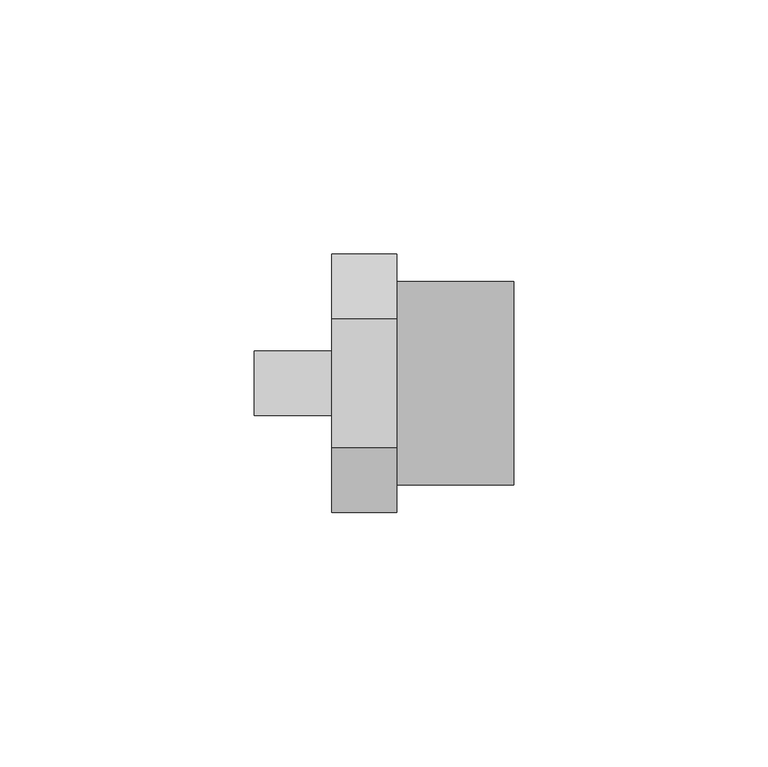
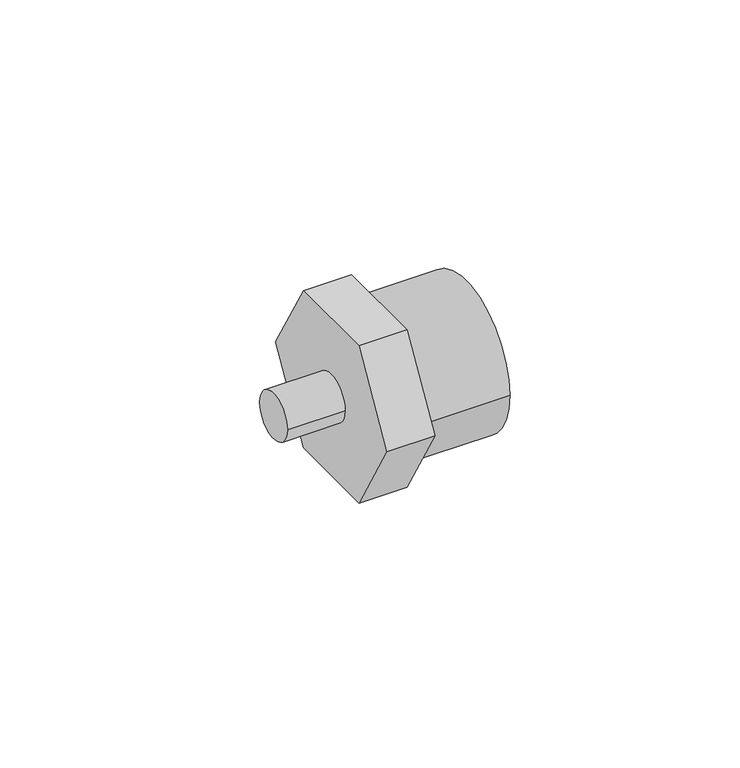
"""IFC4 building model written with IfcOpenShell, lengths in millimetres: pipe fitting geometry, 01101081 : Mamelons de réduction multiple FxMxM."""

from ifc_helpers import new_model, si_unit, point, frame, origin, origin_2d, place, context, project, spatial, polyline, circle_curve, trimmed, segment, composite_curve, outline, extrude, source, transform, mapped, element, save


def pipe_fitting_19b25171(model_context):
    return source(origin(), model_context, "Body", "SweptSolid", [
        extrude(outline(composite_curve([segment(trimmed(circle_curve(origin_2d(), 6.35), [point((6.35, 0.0))], [point((-6.35, 0.0))], False, "CARTESIAN"), True, "CONTINUOUS"), segment(trimmed(circle_curve(origin_2d(), 6.35), [point((-6.35, 0.0))], [point((6.35, 0.0))], False, "CARTESIAN"), True, "CONTINUOUS")], self_intersect=False)), frame((0.0, 0.0, 0.0), z_axis=(1.0, 0.0, 0.0), x_axis=(0.0, 1.0, 0.0)), (0.0, 0.0, 1.0), 15.25),
        extrude(outline(polyline([(-12.7017059, 22.0), (12.7017059, 22.0), (25.4034118, 0.0), (12.7017059, -22.0), (-12.7017059, -22.0), (-25.4034118, 0.0), (-12.7017059, 22.0)])), frame((15.25, 0.0, 0.0), z_axis=(1.0, 0.0, 0.0), x_axis=(0.0, 1.0, 0.0)), (0.0, 0.0, 1.0), 12.75),
        extrude(outline(composite_curve([segment(trimmed(circle_curve(origin_2d(), 20.0), [point((-20.0, 0.0))], [point((20.0, 0.0))], False, "CARTESIAN"), True, "CONTINUOUS"), segment(trimmed(circle_curve(origin_2d(), 20.0), [point((20.0, 0.0))], [point((-20.0, 0.0))], False, "CARTESIAN"), True, "CONTINUOUS")], self_intersect=False)), frame((28.0, 0.0, 0.0), z_axis=(1.0, 0.0, 0.0), x_axis=(0.0, 1.0, 0.0)), (0.0, 0.0, 1.0), 23.0),
    ])


if __name__ == "__main__":
    model = new_model("IFC4")
    model_context = context("Model", 3, world=origin())
    ifc_project = project(units=[si_unit("LENGTHUNIT", "METRE", prefix="MILLI")], contexts=[model_context])
    site = spatial("IfcSite", under=ifc_project)
    building = spatial("IfcBuilding", under=site)
    placement = place(None, origin())
    pipe_fitting_shape = pipe_fitting_19b25171(model_context)
    element("IfcPipeFitting", 1, ObjectType="01101081 : Mamelons de réduction multiple FxMxM", at=placement, inside=building, context=model_context, shape_type="MappedRepresentation", body=[
        mapped(pipe_fitting_shape, transform((0.0, 0.0, 0.0), x_axis=(1.0, 0.0, 0.0), y_axis=(0.0, 1.0, 0.0), z_axis=(0.0, 0.0, 1.0))),
    ])
    save(model, "model.ifc")
